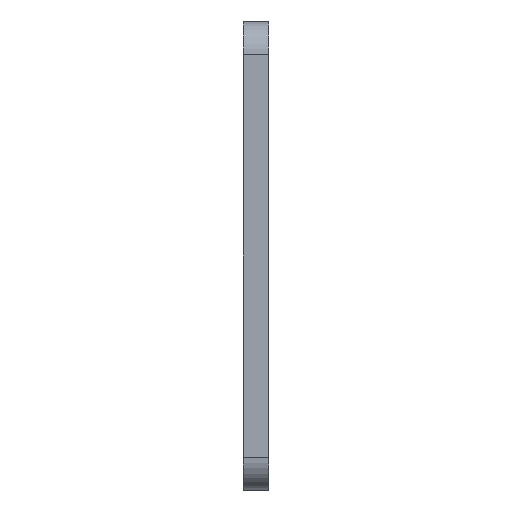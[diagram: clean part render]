
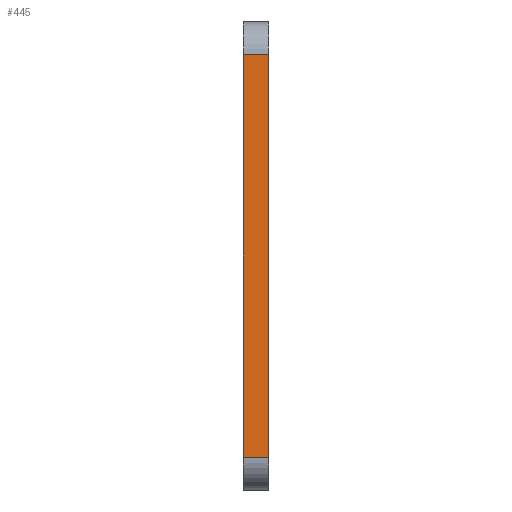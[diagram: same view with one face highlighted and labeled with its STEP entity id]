
A CAD part, left-side view. The second image highlights one B-rep face of the part: STEP entity #445.
In plain terms, the highlighted planar face has unit normal (-1, 0, 0).
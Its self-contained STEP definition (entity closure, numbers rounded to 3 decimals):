
#3 = DIRECTION ( 'NONE',  ( 0., 0., 1. ) ) ;
#16 = AXIS2_PLACEMENT_3D ( 'NONE', #519, #575, #236 ) ;
#31 = ORIENTED_EDGE ( 'NONE', *, *, #329, .F. ) ;
#102 = CARTESIAN_POINT ( 'NONE',  ( -23.539, 2., 40.563 ) ) ;
#122 = PLANE ( 'NONE',  #16 ) ;
#173 = CARTESIAN_POINT ( 'NONE',  ( -23.539, 0., 40.563 ) ) ;
#185 = EDGE_CURVE ( 'NONE', #402, #609, #658, .T. ) ;
#197 = ORIENTED_EDGE ( 'NONE', *, *, #185, .T. ) ;
#202 = EDGE_CURVE ( 'NONE', #609, #304, #515, .T. ) ;
#220 = CARTESIAN_POINT ( 'NONE',  ( -23.539, 2., 40.563 ) ) ;
#223 = VERTEX_POINT ( 'NONE', #220 ) ;
#236 = DIRECTION ( 'NONE',  ( 0., 0., -1. ) ) ;
#242 = LINE ( 'NONE', #290, #355 ) ;
#274 = EDGE_LOOP ( 'NONE', ( #294, #31, #688, #197 ) ) ;
#287 = CARTESIAN_POINT ( 'NONE',  ( -23.539, 2., 8.763 ) ) ;
#290 = CARTESIAN_POINT ( 'NONE',  ( -23.539, 2., 40.563 ) ) ;
#294 = ORIENTED_EDGE ( 'NONE', *, *, #202, .T. ) ;
#304 = VERTEX_POINT ( 'NONE', #173 ) ;
#318 = CARTESIAN_POINT ( 'NONE',  ( -23.539, 2., 8.763 ) ) ;
#329 = EDGE_CURVE ( 'NONE', #223, #304, #242, .T. ) ;
#348 = DIRECTION ( 'NONE',  ( 0., -1., 0. ) ) ;
#355 = VECTOR ( 'NONE', #348, 1000. ) ;
#374 = CARTESIAN_POINT ( 'NONE',  ( -23.539, 0., 40.563 ) ) ;
#402 = VERTEX_POINT ( 'NONE', #287 ) ;
#433 = FACE_OUTER_BOUND ( 'NONE', #274, .T. ) ;
#437 = CARTESIAN_POINT ( 'NONE',  ( -23.539, 0., 8.763 ) ) ;
#445 = ADVANCED_FACE ( 'NONE', ( #433 ), #122, .F. ) ;
#495 = VECTOR ( 'NONE', #598, 1000. ) ;
#515 = LINE ( 'NONE', #374, #495 ) ;
#519 = CARTESIAN_POINT ( 'NONE',  ( -23.539, 2., 40.563 ) ) ;
#530 = VECTOR ( 'NONE', #653, 1000. ) ;
#575 = DIRECTION ( 'NONE',  ( 1., 0., 0. ) ) ;
#581 = EDGE_CURVE ( 'NONE', #402, #223, #657, .T. ) ;
#598 = DIRECTION ( 'NONE',  ( 0., 0., 1. ) ) ;
#609 = VERTEX_POINT ( 'NONE', #437 ) ;
#642 = VECTOR ( 'NONE', #3, 1000. ) ;
#653 = DIRECTION ( 'NONE',  ( 0., -1., 0. ) ) ;
#657 = LINE ( 'NONE', #102, #642 ) ;
#658 = LINE ( 'NONE', #318, #530 ) ;
#688 = ORIENTED_EDGE ( 'NONE', *, *, #581, .F. ) ;
